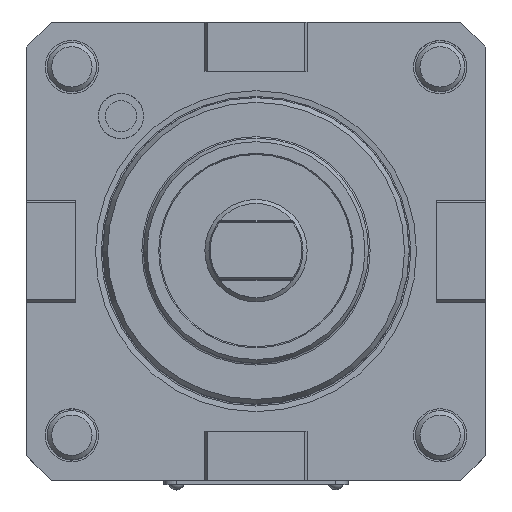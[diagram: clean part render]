
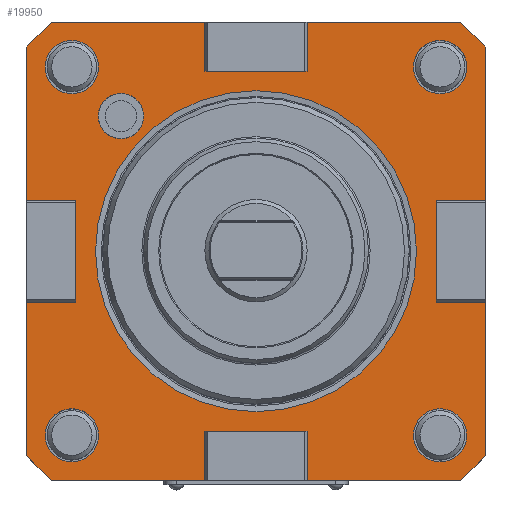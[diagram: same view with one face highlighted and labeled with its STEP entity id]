
A CAD part, top view. The second image highlights one B-rep face of the part: STEP entity #19950.
In plain terms, the highlighted planar face has unit normal (0, 0, 1) as drawn and (-1, 0, 0) by its records, which use the part's own axes.
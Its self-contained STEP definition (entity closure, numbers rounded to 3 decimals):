
#8040=VECTOR('',#14414,1.);
#8048=VECTOR('',#14448,1.);
#8051=VECTOR('',#14457,1.);
#8053=VECTOR('',#14469,1.);
#8388=LINE('',#18608,#8040);
#8396=LINE('',#18643,#8048);
#8399=LINE('',#18651,#8051);
#8401=LINE('',#18659,#8053);
#8747=PLANE('',#19469);
#10207=ORIENTED_EDGE('',*,*,#11720,.F.);
#10208=ORIENTED_EDGE('',*,*,#11745,.F.);
#10209=ORIENTED_EDGE('',*,*,#11746,.F.);
#10210=ORIENTED_EDGE('',*,*,#11735,.F.);
#10211=ORIENTED_EDGE('',*,*,#11738,.F.);
#10212=ORIENTED_EDGE('',*,*,#11740,.F.);
#10213=ORIENTED_EDGE('',*,*,#11742,.F.);
#10214=ORIENTED_EDGE('',*,*,#11743,.F.);
#10215=ORIENTED_EDGE('',*,*,#11747,.F.);
#10216=ORIENTED_EDGE('',*,*,#11765,.F.);
#10217=ORIENTED_EDGE('',*,*,#11767,.F.);
#10218=ORIENTED_EDGE('',*,*,#11770,.F.);
#10219=ORIENTED_EDGE('',*,*,#11777,.F.);
#10220=ORIENTED_EDGE('',*,*,#11774,.F.);
#10461=CIRCLE('',#19393,75.);
#10462=CIRCLE('',#19396,75.);
#10463=CIRCLE('',#19399,75.);
#10464=CIRCLE('',#19401,75.);
#10465=CIRCLE('',#19404,39.215);
#10483=CIRCLE('',#19440,5.55);
#10485=CIRCLE('',#19444,6.5);
#10488=CIRCLE('',#19450,6.5);
#10492=CIRCLE('',#19457,6.5);
#10495=CIRCLE('',#19462,6.5);
#10991=VERTEX_POINT('',#18605);
#10992=VERTEX_POINT('',#18607);
#11004=VERTEX_POINT('',#18635);
#11005=VERTEX_POINT('',#18637);
#11006=VERTEX_POINT('',#18641);
#11007=VERTEX_POINT('',#18645);
#11008=VERTEX_POINT('',#18649);
#11009=VERTEX_POINT('',#18655);
#11010=VERTEX_POINT('',#18661);
#11028=VERTEX_POINT('',#18715);
#11030=VERTEX_POINT('',#18721);
#11033=VERTEX_POINT('',#18730);
#11037=VERTEX_POINT('',#18741);
#11040=VERTEX_POINT('',#18749);
#11720=EDGE_CURVE('',#10991,#10992,#8388,.T.);
#11735=EDGE_CURVE('',#11004,#11005,#10461,.T.);
#11738=EDGE_CURVE('',#11006,#11004,#8396,.T.);
#11740=EDGE_CURVE('',#11007,#11006,#10462,.T.);
#11742=EDGE_CURVE('',#11008,#11007,#8399,.T.);
#11743=EDGE_CURVE('',#10992,#11008,#10463,.T.);
#11745=EDGE_CURVE('',#11009,#10991,#10464,.T.);
#11746=EDGE_CURVE('',#11005,#11009,#8401,.T.);
#11747=EDGE_CURVE('',#11010,#11010,#10465,.T.);
#11765=EDGE_CURVE('',#11028,#11028,#10483,.T.);
#11767=EDGE_CURVE('',#11030,#11030,#10485,.T.);
#11770=EDGE_CURVE('',#11033,#11033,#10488,.T.);
#11774=EDGE_CURVE('',#11037,#11037,#10492,.T.);
#11777=EDGE_CURVE('',#11040,#11040,#10495,.T.);
#12299=EDGE_LOOP('',(#10207,#10208,#10209,#10210,#10211,#10212,#10213,#10214));
#12300=EDGE_LOOP('',(#10215));
#12301=EDGE_LOOP('',(#10216));
#12302=EDGE_LOOP('',(#10217));
#12303=EDGE_LOOP('',(#10218));
#12304=EDGE_LOOP('',(#10219));
#12305=EDGE_LOOP('',(#10220));
#12837=FACE_BOUND('',#12299,.T.);
#12838=FACE_BOUND('',#12300,.T.);
#12839=FACE_BOUND('',#12301,.T.);
#12840=FACE_BOUND('',#12302,.T.);
#12841=FACE_BOUND('',#12303,.T.);
#12842=FACE_BOUND('',#12304,.T.);
#12843=FACE_BOUND('',#12305,.T.);
#14414=DIRECTION('',(0.,0.,99.78));
#14442=DIRECTION('',(1.,0.,0.));
#14443=DIRECTION('',(0.,-56.,-49.89));
#14448=DIRECTION('',(0.,0.,-99.78));
#14452=DIRECTION('',(1.,0.,0.));
#14453=DIRECTION('',(0.,-49.89,56.));
#14457=DIRECTION('',(0.,-99.78,0.));
#14460=DIRECTION('',(1.,0.,0.));
#14461=DIRECTION('',(0.,56.,49.89));
#14465=DIRECTION('',(1.,0.,0.));
#14466=DIRECTION('',(0.,49.89,-56.));
#14469=DIRECTION('',(0.,99.78,0.));
#14472=DIRECTION('',(-1.,0.,0.));
#14473=DIRECTION('',(0.,0.,-39.215));
#14544=DIRECTION('',(-1.,0.,0.));
#14545=DIRECTION('',(0.,0.,-5.55));
#14552=DIRECTION('',(-1.,0.,0.));
#14553=DIRECTION('',(0.,0.,-6.5));
#14564=DIRECTION('',(-1.,0.,0.));
#14565=DIRECTION('',(0.,0.,-6.5));
#14578=DIRECTION('',(-1.,0.,0.));
#14579=DIRECTION('',(0.,-6.5,0.));
#14588=DIRECTION('',(-1.,0.,0.));
#14589=DIRECTION('',(0.,-6.5,0.));
#14602=DIRECTION('',(-1.,0.,0.));
#14603=DIRECTION('',(0.,1.,0.));
#18605=CARTESIAN_POINT('',(-65.003,56.,-49.89));
#18607=CARTESIAN_POINT('',(-65.003,56.,49.89));
#18608=CARTESIAN_POINT('',(-65.003,56.,-49.89));
#18635=CARTESIAN_POINT('',(-65.003,-56.,-49.89));
#18637=CARTESIAN_POINT('',(-65.003,-49.89,-56.));
#18638=CARTESIAN_POINT('',(-65.003,0.,0.));
#18641=CARTESIAN_POINT('',(-65.003,-56.,49.89));
#18643=CARTESIAN_POINT('',(-65.003,-56.,49.89));
#18645=CARTESIAN_POINT('',(-65.003,-49.89,56.));
#18647=CARTESIAN_POINT('',(-65.003,0.,0.));
#18649=CARTESIAN_POINT('',(-65.003,49.89,56.));
#18651=CARTESIAN_POINT('',(-65.003,49.89,56.));
#18653=CARTESIAN_POINT('',(-65.003,0.,0.));
#18655=CARTESIAN_POINT('',(-65.003,49.89,-56.));
#18657=CARTESIAN_POINT('',(-65.003,0.,0.));
#18659=CARTESIAN_POINT('',(-65.003,-49.89,-56.));
#18661=CARTESIAN_POINT('',(-65.003,0.,-39.215));
#18662=CARTESIAN_POINT('',(-65.003,0.,0.));
#18715=CARTESIAN_POINT('',(-65.003,-33.,-38.55));
#18716=CARTESIAN_POINT('',(-65.003,-33.,-33.));
#18721=CARTESIAN_POINT('',(-65.003,45.,38.5));
#18722=CARTESIAN_POINT('',(-65.003,45.,45.));
#18730=CARTESIAN_POINT('',(-65.003,-45.,-51.5));
#18731=CARTESIAN_POINT('',(-65.003,-45.,-45.));
#18741=CARTESIAN_POINT('',(-65.003,-51.5,45.));
#18742=CARTESIAN_POINT('',(-65.003,-45.,45.));
#18749=CARTESIAN_POINT('',(-65.003,38.5,-45.));
#18750=CARTESIAN_POINT('',(-65.003,45.,-45.));
#18759=CARTESIAN_POINT('',(-65.003,56.,-49.89));
#19393=AXIS2_PLACEMENT_3D('',#18638,#14442,#14443);
#19396=AXIS2_PLACEMENT_3D('',#18647,#14452,#14453);
#19399=AXIS2_PLACEMENT_3D('',#18653,#14460,#14461);
#19401=AXIS2_PLACEMENT_3D('',#18657,#14465,#14466);
#19404=AXIS2_PLACEMENT_3D('',#18662,#14472,#14473);
#19440=AXIS2_PLACEMENT_3D('',#18716,#14544,#14545);
#19444=AXIS2_PLACEMENT_3D('',#18722,#14552,#14553);
#19450=AXIS2_PLACEMENT_3D('',#18731,#14564,#14565);
#19457=AXIS2_PLACEMENT_3D('',#18742,#14578,#14579);
#19462=AXIS2_PLACEMENT_3D('',#18750,#14588,#14589);
#19469=AXIS2_PLACEMENT_3D('',#18759,#14602,#14603);
#19950=ADVANCED_FACE('',(#12837,#12838,#12839,#12840,#12841,#12842,#12843),
#8747,.T.);
